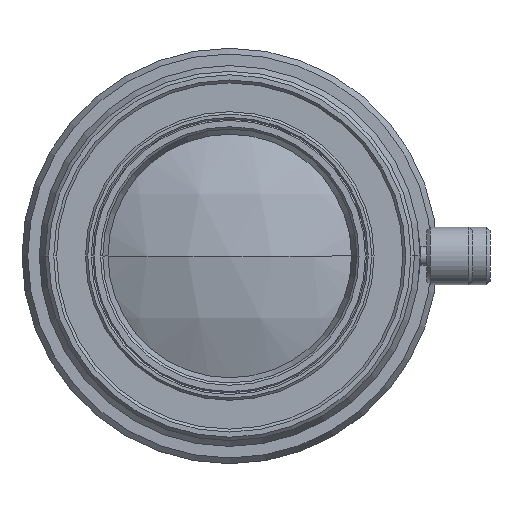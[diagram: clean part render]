
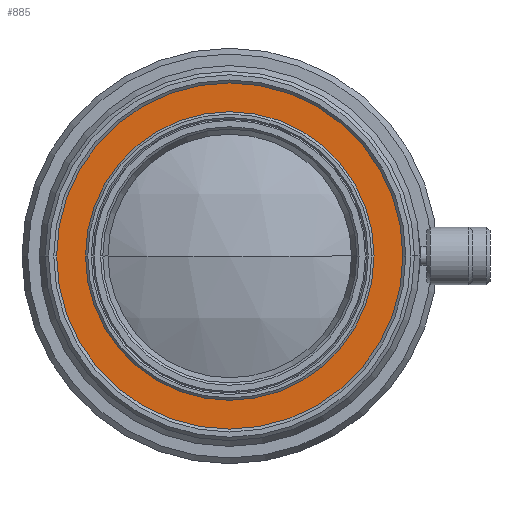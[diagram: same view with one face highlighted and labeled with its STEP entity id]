
A CAD part, left-side view. The second image highlights one B-rep face of the part: STEP entity #885.
In plain terms, the highlighted planar face has unit normal (-1, 0, 0).
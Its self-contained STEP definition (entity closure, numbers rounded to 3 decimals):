
#45 = CARTESIAN_POINT ( 'NONE',  ( -70.526, 0., 0. ) ) ;
#59 = CIRCLE ( 'NONE', #222, 12.5 ) ;
#125 = AXIS2_PLACEMENT_3D ( 'NONE', #45, #2097, #2083 ) ;
#222 = AXIS2_PLACEMENT_3D ( 'NONE', #578, #1342, #2394 ) ;
#237 = DIRECTION ( 'NONE',  ( -1., 0., 0. ) ) ;
#427 = DIRECTION ( 'NONE',  ( 1., 0., 0. ) ) ;
#507 = CARTESIAN_POINT ( 'NONE',  ( -70.526, 0., 0. ) ) ;
#578 = CARTESIAN_POINT ( 'NONE',  ( -70.526, 0., 0. ) ) ;
#730 = EDGE_LOOP ( 'NONE', ( #3081, #2649 ) ) ;
#759 = EDGE_CURVE ( 'NONE', #3039, #2767, #2244, .T. ) ;
#783 = CARTESIAN_POINT ( 'NONE',  ( -70.526, -12.5, 0. ) ) ;
#784 = AXIS2_PLACEMENT_3D ( 'NONE', #2555, #237, #990 ) ;
#885 = ADVANCED_FACE ( 'NONE', ( #1951, #3257 ), #2566, .T. ) ;
#990 = DIRECTION ( 'NONE',  ( 0., -1., 0. ) ) ;
#1281 = AXIS2_PLACEMENT_3D ( 'NONE', #3248, #427, #1957 ) ;
#1342 = DIRECTION ( 'NONE',  ( 1., 0., 0. ) ) ;
#1478 = EDGE_CURVE ( 'NONE', #1909, #2106, #1934, .T. ) ;
#1491 = AXIS2_PLACEMENT_3D ( 'NONE', #507, #2851, #1556 ) ;
#1556 = DIRECTION ( 'NONE',  ( 0., 1., 0. ) ) ;
#1649 = ORIENTED_EDGE ( 'NONE', *, *, #2447, .T. ) ;
#1723 = CARTESIAN_POINT ( 'NONE',  ( -70.526, 12.5, 0. ) ) ;
#1909 = VERTEX_POINT ( 'NONE', #2838 ) ;
#1934 = CIRCLE ( 'NONE', #125, 15.25 ) ;
#1951 = FACE_BOUND ( 'NONE', #2124, .T. ) ;
#1957 = DIRECTION ( 'NONE',  ( 0., 1., 0. ) ) ;
#2083 = DIRECTION ( 'NONE',  ( 0., 1., 0. ) ) ;
#2097 = DIRECTION ( 'NONE',  ( 1., 0., 0. ) ) ;
#2101 = ORIENTED_EDGE ( 'NONE', *, *, #759, .T. ) ;
#2106 = VERTEX_POINT ( 'NONE', #2497 ) ;
#2124 = EDGE_LOOP ( 'NONE', ( #1649, #2101 ) ) ;
#2244 = CIRCLE ( 'NONE', #1281, 12.5 ) ;
#2346 = CIRCLE ( 'NONE', #1491, 15.25 ) ;
#2394 = DIRECTION ( 'NONE',  ( 0., 1., 0. ) ) ;
#2447 = EDGE_CURVE ( 'NONE', #2767, #3039, #59, .T. ) ;
#2497 = CARTESIAN_POINT ( 'NONE',  ( -70.526, 15.25, 0. ) ) ;
#2555 = CARTESIAN_POINT ( 'NONE',  ( -70.526, 14.75, 0. ) ) ;
#2566 = PLANE ( 'NONE',  #784 ) ;
#2649 = ORIENTED_EDGE ( 'NONE', *, *, #1478, .F. ) ;
#2767 = VERTEX_POINT ( 'NONE', #1723 ) ;
#2838 = CARTESIAN_POINT ( 'NONE',  ( -70.526, -15.25, 0. ) ) ;
#2851 = DIRECTION ( 'NONE',  ( 1., 0., 0. ) ) ;
#3037 = EDGE_CURVE ( 'NONE', #2106, #1909, #2346, .T. ) ;
#3039 = VERTEX_POINT ( 'NONE', #783 ) ;
#3081 = ORIENTED_EDGE ( 'NONE', *, *, #3037, .F. ) ;
#3248 = CARTESIAN_POINT ( 'NONE',  ( -70.526, 0., 0. ) ) ;
#3257 = FACE_OUTER_BOUND ( 'NONE', #730, .T. ) ;
